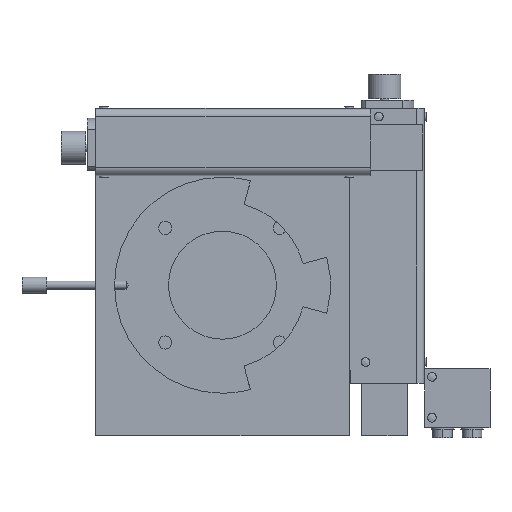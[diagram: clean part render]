
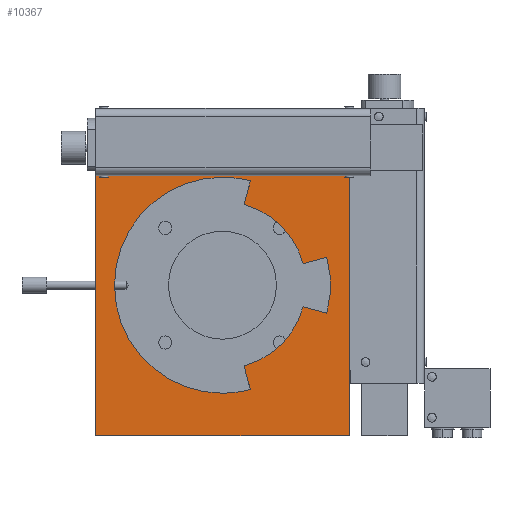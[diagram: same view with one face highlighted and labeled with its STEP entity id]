
A CAD part, front view. The second image highlights one B-rep face of the part: STEP entity #10367.
In plain terms, the highlighted planar face has unit normal (0, -1, 0) as drawn and (0, 0, -1) by its records, which use the part's own axes.
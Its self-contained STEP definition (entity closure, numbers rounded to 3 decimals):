
#1910 = AXIS2_PLACEMENT_3D ( 'NONE', #7024, #7032, #7033 ) ;
#2392 = EDGE_CURVE ( 'NONE', #13554, #13357, #10260, .T. ) ;
#2395 = EDGE_CURVE ( 'NONE', #13357, #13419, #9596, .T. ) ;
#2504 = EDGE_CURVE ( 'NONE', #11755, #11763, #11603, .T. ) ;
#2506 = EDGE_CURVE ( 'NONE', #11755, #11760, #11608, .T. ) ;
#2509 = EDGE_CURVE ( 'NONE', #11760, #11771, #11597, .T. ) ;
#2510 = EDGE_CURVE ( 'NONE', #11763, #11771, #11620, .T. ) ;
#2514 = EDGE_CURVE ( 'NONE', #11811, #11775, #9655, .T. ) ;
#2517 = EDGE_CURVE ( 'NONE', #11845, #13554, #9712, .T. ) ;
#2518 = EDGE_CURVE ( 'NONE', #11801, #11811, #11642, .T. ) ;
#2519 = EDGE_CURVE ( 'NONE', #11801, #11803, #9704, .T. ) ;
#2520 = EDGE_CURVE ( 'NONE', #13419, #11803, #11649, .T. ) ;
#2521 = EDGE_CURVE ( 'NONE', #11842, #11845, #11654, .T. ) ;
#2522 = EDGE_CURVE ( 'NONE', #11842, #11797, #9834, .T. ) ;
#2523 = EDGE_CURVE ( 'NONE', #11775, #11797, #11648, .T. ) ;
#7024 = CARTESIAN_POINT ( 'NONE',  ( -77.5, 90., 0. ) ) ;
#7028 = FACE_BOUND ( 'NONE', #12620, .T. ) ;
#7029 = FACE_OUTER_BOUND ( 'NONE', #12644, .T. ) ;
#7030 = PLANE ( 'NONE',  #1910 ) ;
#7032 = DIRECTION ( 'NONE',  ( 0., 0., 1. ) ) ;
#7033 = DIRECTION ( 'NONE',  ( 0., 1., 0. ) ) ;
#7731 = CARTESIAN_POINT ( 'NONE',  ( -77.5, 90., 0. ) ) ;
#7736 = CARTESIAN_POINT ( 'NONE',  ( -77.5, -92., 0. ) ) ;
#7739 = CARTESIAN_POINT ( 'NONE',  ( 77.5, 90., 0. ) ) ;
#7747 = CARTESIAN_POINT ( 'NONE',  ( 77.5, -92., 0. ) ) ;
#7751 = CARTESIAN_POINT ( 'NONE',  ( -63.751, 17.082, 0. ) ) ;
#7773 = CARTESIAN_POINT ( 'NONE',  ( -49.262, 13.2, 0. ) ) ;
#7777 = CARTESIAN_POINT ( 'NONE',  ( -49.262, -13.2, 0. ) ) ;
#7779 = CARTESIAN_POINT ( 'NONE',  ( -13.2, -49.262, 0. ) ) ;
#7787 = CARTESIAN_POINT ( 'NONE',  ( -63.751, -17.082, 0. ) ) ;
#7817 = CARTESIAN_POINT ( 'NONE',  ( -13.2, 49.262, 0. ) ) ;
#7820 = CARTESIAN_POINT ( 'NONE',  ( -17.082, 63.751, 0. ) ) ;
#7838 = CARTESIAN_POINT ( 'NONE',  ( 0., -66., 0. ) ) ;
#7875 = CARTESIAN_POINT ( 'NONE',  ( -17.082, -63.751, 0. ) ) ;
#7903 = CARTESIAN_POINT ( 'NONE',  ( 0., 66., 0. ) ) ;
#9596 = CIRCLE ( 'NONE', #9837, 66. ) ;
#9611 = VECTOR ( 'NONE', #11605, 1000. ) ;
#9651 = VECTOR ( 'NONE', #11660, 1000. ) ;
#9652 = VECTOR ( 'NONE', #11653, 1000. ) ;
#9653 = VECTOR ( 'NONE', #11622, 1000. ) ;
#9655 = CIRCLE ( 'NONE', #9747, 66. ) ;
#9661 = VECTOR ( 'NONE', #11646, 1000. ) ;
#9674 = VECTOR ( 'NONE', #11619, 1000. ) ;
#9680 = VECTOR ( 'NONE', #11610, 1000. ) ;
#9704 = CIRCLE ( 'NONE', #9851, 51. ) ;
#9706 = AXIS2_PLACEMENT_3D ( 'NONE', #11657, #11658, #11659 ) ;
#9712 = CIRCLE ( 'NONE', #9785, 66. ) ;
#9747 = AXIS2_PLACEMENT_3D ( 'NONE', #11633, #11634, #11635 ) ;
#9784 = VECTOR ( 'NONE', #11656, 1000. ) ;
#9785 = AXIS2_PLACEMENT_3D ( 'NONE', #11643, #11644, #11645 ) ;
#9834 = CIRCLE ( 'NONE', #9706, 51. ) ;
#9837 = AXIS2_PLACEMENT_3D ( 'NONE', #11316, #11317, #11318 ) ;
#9851 = AXIS2_PLACEMENT_3D ( 'NONE', #11650, #11651, #11652 ) ;
#10260 = CIRCLE ( 'NONE', #10504, 66. ) ;
#10367 = ADVANCED_FACE ( 'NONE', ( #7028, #7029 ), #7030, .F. ) ;
#10504 = AXIS2_PLACEMENT_3D ( 'NONE', #11306, #11307, #11308 ) ;
#11306 = CARTESIAN_POINT ( 'NONE',  ( 0., 0., 0. ) ) ;
#11307 = DIRECTION ( 'NONE',  ( 0., 0., -1. ) ) ;
#11308 = DIRECTION ( 'NONE',  ( 0., -1., 0. ) ) ;
#11316 = CARTESIAN_POINT ( 'NONE',  ( 0., 0., 0. ) ) ;
#11317 = DIRECTION ( 'NONE',  ( 0., 0., -1. ) ) ;
#11318 = DIRECTION ( 'NONE',  ( 0., -1., 0. ) ) ;
#11597 = LINE ( 'NONE', #11618, #9674 ) ;
#11603 = LINE ( 'NONE', #11604, #9611 ) ;
#11604 = CARTESIAN_POINT ( 'NONE',  ( -77.5, 90., 0. ) ) ;
#11605 = DIRECTION ( 'NONE',  ( 1., 0., 0. ) ) ;
#11608 = LINE ( 'NONE', #11609, #9680 ) ;
#11609 = CARTESIAN_POINT ( 'NONE',  ( -77.5, 90., 0. ) ) ;
#11610 = DIRECTION ( 'NONE',  ( 0., -1., 0. ) ) ;
#11618 = CARTESIAN_POINT ( 'NONE',  ( -77.5, -92., 0. ) ) ;
#11619 = DIRECTION ( 'NONE',  ( 1., 0., 0. ) ) ;
#11620 = LINE ( 'NONE', #11621, #9653 ) ;
#11621 = CARTESIAN_POINT ( 'NONE',  ( 77.5, 90., 0. ) ) ;
#11622 = DIRECTION ( 'NONE',  ( 0., -1., 0. ) ) ;
#11633 = CARTESIAN_POINT ( 'NONE',  ( 0., 0., 0. ) ) ;
#11634 = DIRECTION ( 'NONE',  ( 0., 0., -1. ) ) ;
#11635 = DIRECTION ( 'NONE',  ( 0., -1., 0. ) ) ;
#11639 = CARTESIAN_POINT ( 'NONE',  ( -63.751, -17.082, 0. ) ) ;
#11641 = CARTESIAN_POINT ( 'NONE',  ( -13.2, -49.262, 0. ) ) ;
#11642 = LINE ( 'NONE', #11639, #9661 ) ;
#11643 = CARTESIAN_POINT ( 'NONE',  ( 0., 0., 0. ) ) ;
#11644 = DIRECTION ( 'NONE',  ( 0., 0., -1. ) ) ;
#11645 = DIRECTION ( 'NONE',  ( 0., -1., 0. ) ) ;
#11646 = DIRECTION ( 'NONE',  ( -0.966, -0.259, 0. ) ) ;
#11647 = CARTESIAN_POINT ( 'NONE',  ( -49.262, 13.2, 0. ) ) ;
#11648 = LINE ( 'NONE', #11647, #9651 ) ;
#11649 = LINE ( 'NONE', #11641, #9652 ) ;
#11650 = CARTESIAN_POINT ( 'NONE',  ( 0., 0., 0. ) ) ;
#11651 = DIRECTION ( 'NONE',  ( 0., 0., 1. ) ) ;
#11652 = DIRECTION ( 'NONE',  ( 0.707, -0.707, 0. ) ) ;
#11653 = DIRECTION ( 'NONE',  ( 0.259, 0.966, 0. ) ) ;
#11654 = LINE ( 'NONE', #11655, #9784 ) ;
#11655 = CARTESIAN_POINT ( 'NONE',  ( -17.082, 63.751, 0. ) ) ;
#11656 = DIRECTION ( 'NONE',  ( -0.259, 0.966, 0. ) ) ;
#11657 = CARTESIAN_POINT ( 'NONE',  ( 0., 0., 0. ) ) ;
#11658 = DIRECTION ( 'NONE',  ( 0., 0., 1. ) ) ;
#11659 = DIRECTION ( 'NONE',  ( -0.707, -0.707, 0. ) ) ;
#11660 = DIRECTION ( 'NONE',  ( 0.966, -0.259, 0. ) ) ;
#11755 = VERTEX_POINT ( 'NONE', #7731 ) ;
#11760 = VERTEX_POINT ( 'NONE', #7736 ) ;
#11763 = VERTEX_POINT ( 'NONE', #7739 ) ;
#11771 = VERTEX_POINT ( 'NONE', #7747 ) ;
#11775 = VERTEX_POINT ( 'NONE', #7751 ) ;
#11797 = VERTEX_POINT ( 'NONE', #7773 ) ;
#11801 = VERTEX_POINT ( 'NONE', #7777 ) ;
#11803 = VERTEX_POINT ( 'NONE', #7779 ) ;
#11811 = VERTEX_POINT ( 'NONE', #7787 ) ;
#11842 = VERTEX_POINT ( 'NONE', #7817 ) ;
#11845 = VERTEX_POINT ( 'NONE', #7820 ) ;
#12620 = EDGE_LOOP ( 'NONE', ( #12762, #12763, #12764, #12765, #12766, #12767, #12768, #12769, #12770, #12771 ) ) ;
#12644 = EDGE_LOOP ( 'NONE', ( #12772, #12773, #12774, #12775 ) ) ;
#12762 = ORIENTED_EDGE ( 'NONE', *, *, #2514, .F. ) ;
#12763 = ORIENTED_EDGE ( 'NONE', *, *, #2518, .F. ) ;
#12764 = ORIENTED_EDGE ( 'NONE', *, *, #2519, .T. ) ;
#12765 = ORIENTED_EDGE ( 'NONE', *, *, #2520, .F. ) ;
#12766 = ORIENTED_EDGE ( 'NONE', *, *, #2395, .F. ) ;
#12767 = ORIENTED_EDGE ( 'NONE', *, *, #2392, .F. ) ;
#12768 = ORIENTED_EDGE ( 'NONE', *, *, #2517, .F. ) ;
#12769 = ORIENTED_EDGE ( 'NONE', *, *, #2521, .F. ) ;
#12770 = ORIENTED_EDGE ( 'NONE', *, *, #2522, .T. ) ;
#12771 = ORIENTED_EDGE ( 'NONE', *, *, #2523, .F. ) ;
#12772 = ORIENTED_EDGE ( 'NONE', *, *, #2510, .T. ) ;
#12773 = ORIENTED_EDGE ( 'NONE', *, *, #2509, .F. ) ;
#12774 = ORIENTED_EDGE ( 'NONE', *, *, #2506, .F. ) ;
#12775 = ORIENTED_EDGE ( 'NONE', *, *, #2504, .T. ) ;
#13357 = VERTEX_POINT ( 'NONE', #7838 ) ;
#13419 = VERTEX_POINT ( 'NONE', #7875 ) ;
#13554 = VERTEX_POINT ( 'NONE', #7903 ) ;
